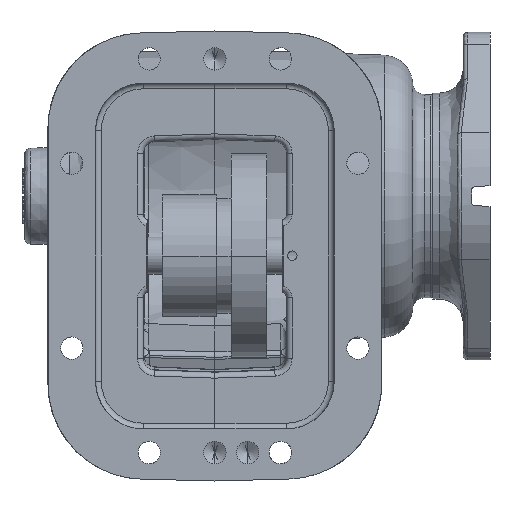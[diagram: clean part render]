
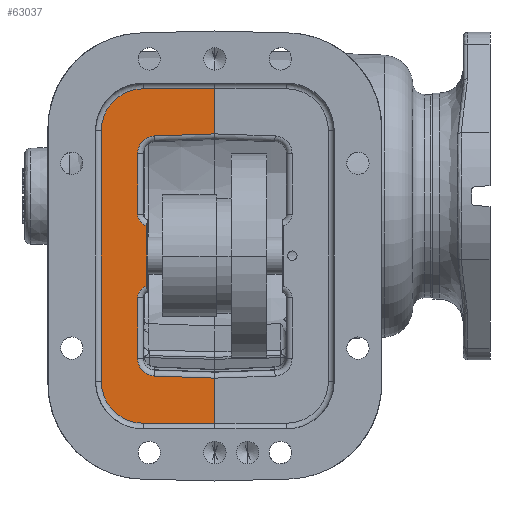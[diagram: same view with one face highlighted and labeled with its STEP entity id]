
A CAD part, front view. The second image highlights one B-rep face of the part: STEP entity #63037.
In plain terms, the highlighted planar face has unit normal (0, -1, 0).
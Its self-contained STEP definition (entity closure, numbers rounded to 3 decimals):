
#1241 = EDGE_LOOP ( 'NONE', ( #9605, #9607, #9609, #9611, #9613, #9615, #9617, #9619, #9621, #9623, #9625, #9627, #9629, #9631, #9633, #9635 ) ) ;
#7384 = CARTESIAN_POINT ( 'NONE',  ( -88.773, -151.106, 55.209 ) ) ;
#7389 = PLANE ( 'NONE',  #95611 ) ;
#7393 = DIRECTION ( 'NONE',  ( 0., 1., 0. ) ) ;
#7394 = DIRECTION ( 'NONE',  ( 0., 0., 1. ) ) ;
#9605 = ORIENTED_EDGE ( 'NONE', *, *, #86012, .F. ) ;
#9607 = ORIENTED_EDGE ( 'NONE', *, *, #59737, .T. ) ;
#9609 = ORIENTED_EDGE ( 'NONE', *, *, #59759, .T. ) ;
#9611 = ORIENTED_EDGE ( 'NONE', *, *, #59781, .T. ) ;
#9613 = ORIENTED_EDGE ( 'NONE', *, *, #59803, .T. ) ;
#9615 = ORIENTED_EDGE ( 'NONE', *, *, #59829, .T. ) ;
#9617 = ORIENTED_EDGE ( 'NONE', *, *, #59858, .T. ) ;
#9619 = ORIENTED_EDGE ( 'NONE', *, *, #59877, .T. ) ;
#9621 = ORIENTED_EDGE ( 'NONE', *, *, #59895, .T. ) ;
#9623 = ORIENTED_EDGE ( 'NONE', *, *, #59916, .T. ) ;
#9625 = ORIENTED_EDGE ( 'NONE', *, *, #86015, .F. ) ;
#9627 = ORIENTED_EDGE ( 'NONE', *, *, #60205, .T. ) ;
#9629 = ORIENTED_EDGE ( 'NONE', *, *, #60183, .T. ) ;
#9631 = ORIENTED_EDGE ( 'NONE', *, *, #60161, .T. ) ;
#9633 = ORIENTED_EDGE ( 'NONE', *, *, #60139, .T. ) ;
#9635 = ORIENTED_EDGE ( 'NONE', *, *, #60146, .T. ) ;
#15151 = LINE ( 'NONE', #54886, #15155 ) ;
#15154 = LINE ( 'NONE', #54888, #15159 ) ;
#15155 = VECTOR ( 'NONE', #54887, 1000. ) ;
#15159 = VECTOR ( 'NONE', #54889, 1000. ) ;
#20519 = CARTESIAN_POINT ( 'NONE',  ( 0.127, -151.106, 26.761 ) ) ;
#20523 = CARTESIAN_POINT ( 'NONE',  ( -37.973, -151.106, 26.761 ) ) ;
#20527 = CARTESIAN_POINT ( 'NONE',  ( -60.325, -151.106, 4.409 ) ) ;
#20530 = CARTESIAN_POINT ( 'NONE',  ( -37.973, -151.106, -151.293 ) ) ;
#20532 = CARTESIAN_POINT ( 'NONE',  ( 0.127, -151.106, -151.293 ) ) ;
#20533 = CARTESIAN_POINT ( 'NONE',  ( -60.325, -151.106, -128.941 ) ) ;
#20557 = CARTESIAN_POINT ( 'NONE',  ( 0.127, -151.106, 2.76 ) ) ;
#20565 = CARTESIAN_POINT ( 'NONE',  ( -31.951, -151.106, 1.64 ) ) ;
#20566 = CARTESIAN_POINT ( 'NONE',  ( -41.021, -151.106, -40.104 ) ) ;
#20569 = CARTESIAN_POINT ( 'NONE',  ( -41.021, -151.106, -7.753 ) ) ;
#20571 = CARTESIAN_POINT ( 'NONE',  ( -36.195, -151.106, -46.066 ) ) ;
#20574 = CARTESIAN_POINT ( 'NONE',  ( -36.195, -151.106, -78.466 ) ) ;
#20582 = CARTESIAN_POINT ( 'NONE',  ( -41.021, -151.106, -84.428 ) ) ;
#20583 = CARTESIAN_POINT ( 'NONE',  ( -41.021, -151.106, -116.779 ) ) ;
#20584 = CARTESIAN_POINT ( 'NONE',  ( 0.127, -151.106, -127.292 ) ) ;
#21937 = VERTEX_POINT ( 'NONE', #20519 ) ;
#21941 = VERTEX_POINT ( 'NONE', #20523 ) ;
#21945 = VERTEX_POINT ( 'NONE', #20527 ) ;
#21948 = VERTEX_POINT ( 'NONE', #20530 ) ;
#21950 = VERTEX_POINT ( 'NONE', #20532 ) ;
#21951 = VERTEX_POINT ( 'NONE', #20533 ) ;
#21975 = VERTEX_POINT ( 'NONE', #20557 ) ;
#21983 = VERTEX_POINT ( 'NONE', #20565 ) ;
#21984 = VERTEX_POINT ( 'NONE', #20566 ) ;
#21987 = VERTEX_POINT ( 'NONE', #20569 ) ;
#21989 = VERTEX_POINT ( 'NONE', #20571 ) ;
#21992 = VERTEX_POINT ( 'NONE', #20574 ) ;
#22000 = VERTEX_POINT ( 'NONE', #20582 ) ;
#22001 = VERTEX_POINT ( 'NONE', #20583 ) ;
#22002 = VERTEX_POINT ( 'NONE', #20584 ) ;
#22004 = VERTEX_POINT ( 'NONE', #94001 ) ;
#27762 = FACE_OUTER_BOUND ( 'NONE', #1241, .T. ) ;
#54886 = CARTESIAN_POINT ( 'NONE',  ( 0.127, -151.106, 55.209 ) ) ;
#54887 = DIRECTION ( 'NONE',  ( 0., 0., -1. ) ) ;
#54888 = CARTESIAN_POINT ( 'NONE',  ( 0.127, -151.106, 55.209 ) ) ;
#54889 = DIRECTION ( 'NONE',  ( 0., 0., -1. ) ) ;
#59737 = EDGE_CURVE ( 'NONE', #22002, #22004, #70588, .T. ) ;
#59759 = EDGE_CURVE ( 'NONE', #22004, #22001, #70597, .T. ) ;
#59781 = EDGE_CURVE ( 'NONE', #22001, #22000, #70604, .T. ) ;
#59803 = EDGE_CURVE ( 'NONE', #22000, #21992, #70616, .T. ) ;
#59829 = EDGE_CURVE ( 'NONE', #21992, #21989, #70624, .T. ) ;
#59858 = EDGE_CURVE ( 'NONE', #21989, #21984, #70632, .T. ) ;
#59877 = EDGE_CURVE ( 'NONE', #21984, #21987, #70638, .T. ) ;
#59895 = EDGE_CURVE ( 'NONE', #21987, #21983, #70649, .T. ) ;
#59916 = EDGE_CURVE ( 'NONE', #21983, #21975, #70654, .T. ) ;
#60139 = EDGE_CURVE ( 'NONE', #21951, #21948, #70705, .T. ) ;
#60146 = EDGE_CURVE ( 'NONE', #21948, #21950, #70704, .T. ) ;
#60161 = EDGE_CURVE ( 'NONE', #21945, #21951, #70712, .T. ) ;
#60183 = EDGE_CURVE ( 'NONE', #21941, #21945, #70725, .T. ) ;
#60205 = EDGE_CURVE ( 'NONE', #21937, #21941, #70732, .T. ) ;
#63037 = ADVANCED_FACE ( 'NONE', ( #27762 ), #7389, .F. ) ;
#68636 = DIRECTION ( 'NONE',  ( -0.999, 0., 0.035 ) ) ;
#68643 = CARTESIAN_POINT ( 'NONE',  ( -31.951, -151.106, -126.172 ) ) ;
#68691 = CARTESIAN_POINT ( 'NONE',  ( -31.623, -151.106, -116.779 ) ) ;
#68692 = DIRECTION ( 'NONE',  ( 0., 1., 0. ) ) ;
#68694 = DIRECTION ( 'NONE',  ( 0., 0., 1. ) ) ;
#68713 = DIRECTION ( 'NONE',  ( 0., 0., 1. ) ) ;
#68721 = CARTESIAN_POINT ( 'NONE',  ( -41.021, -151.106, -84.428 ) ) ;
#68768 = CARTESIAN_POINT ( 'NONE',  ( -34.925, -151.106, -84.428 ) ) ;
#68770 = DIRECTION ( 'NONE',  ( 0., 1., 0. ) ) ;
#68771 = DIRECTION ( 'NONE',  ( 0., 0., 1. ) ) ;
#68799 = DIRECTION ( 'NONE',  ( 0., 0., 1. ) ) ;
#68808 = CARTESIAN_POINT ( 'NONE',  ( -36.195, -151.106, -46.066 ) ) ;
#68872 = CARTESIAN_POINT ( 'NONE',  ( -34.925, -151.106, -40.104 ) ) ;
#68874 = DIRECTION ( 'NONE',  ( 0., 1., 0. ) ) ;
#68876 = DIRECTION ( 'NONE',  ( 0., 0., 1. ) ) ;
#68887 = DIRECTION ( 'NONE',  ( 0., 0., 1. ) ) ;
#68896 = CARTESIAN_POINT ( 'NONE',  ( -41.021, -151.106, -7.753 ) ) ;
#68945 = CARTESIAN_POINT ( 'NONE',  ( -31.623, -151.106, -7.753 ) ) ;
#68947 = DIRECTION ( 'NONE',  ( 0., 1., 0. ) ) ;
#68949 = DIRECTION ( 'NONE',  ( 0., 0., 1. ) ) ;
#68952 = CARTESIAN_POINT ( 'NONE',  ( 0.021, -151.106, 2.756 ) ) ;
#68982 = DIRECTION ( 'NONE',  ( 0.999, 0., 0.035 ) ) ;
#69619 = DIRECTION ( 'NONE',  ( 1., 0., 0. ) ) ;
#69620 = CARTESIAN_POINT ( 'NONE',  ( -37.973, -151.106, -128.941 ) ) ;
#69621 = DIRECTION ( 'NONE',  ( 0., -1., 0. ) ) ;
#69622 = DIRECTION ( 'NONE',  ( 0., 0., 1. ) ) ;
#69623 = CARTESIAN_POINT ( 'NONE',  ( 0.127, -151.106, -151.293 ) ) ;
#69630 = CARTESIAN_POINT ( 'NONE',  ( -60.325, -151.106, -128.941 ) ) ;
#69636 = DIRECTION ( 'NONE',  ( 0., 0., -1. ) ) ;
#69649 = CARTESIAN_POINT ( 'NONE',  ( -37.973, -151.106, 4.409 ) ) ;
#69650 = DIRECTION ( 'NONE',  ( 0., -1., 0. ) ) ;
#69651 = DIRECTION ( 'NONE',  ( 0., 0., 1. ) ) ;
#69662 = CARTESIAN_POINT ( 'NONE',  ( -37.973, -151.106, 26.761 ) ) ;
#69668 = DIRECTION ( 'NONE',  ( -1., 0., 0. ) ) ;
#70588 = LINE ( 'NONE', #68643, #70593 ) ;
#70593 = VECTOR ( 'NONE', #68636, 1000. ) ;
#70597 = CIRCLE ( 'NONE', #89860, 9.398 ) ;
#70604 = LINE ( 'NONE', #68721, #70610 ) ;
#70610 = VECTOR ( 'NONE', #68713, 1000. ) ;
#70616 = CIRCLE ( 'NONE', #89868, 6.096 ) ;
#70624 = LINE ( 'NONE', #68808, #70628 ) ;
#70628 = VECTOR ( 'NONE', #68799, 1000. ) ;
#70632 = CIRCLE ( 'NONE', #89881, 6.096 ) ;
#70638 = LINE ( 'NONE', #68896, #70645 ) ;
#70645 = VECTOR ( 'NONE', #68887, 1000. ) ;
#70649 = CIRCLE ( 'NONE', #89888, 9.398 ) ;
#70654 = LINE ( 'NONE', #68952, #70661 ) ;
#70661 = VECTOR ( 'NONE', #68982, 1000. ) ;
#70704 = LINE ( 'NONE', #69623, #70709 ) ;
#70705 = CIRCLE ( 'NONE', #89913, 22.352 ) ;
#70709 = VECTOR ( 'NONE', #69619, 1000. ) ;
#70712 = LINE ( 'NONE', #69630, #70718 ) ;
#70718 = VECTOR ( 'NONE', #69636, 1000. ) ;
#70725 = CIRCLE ( 'NONE', #89919, 22.352 ) ;
#70732 = LINE ( 'NONE', #69662, #70736 ) ;
#70736 = VECTOR ( 'NONE', #69668, 1000. ) ;
#86012 = EDGE_CURVE ( 'NONE', #22002, #21950, #15151, .T. ) ;
#86015 = EDGE_CURVE ( 'NONE', #21937, #21975, #15154, .T. ) ;
#89860 = AXIS2_PLACEMENT_3D ( 'NONE', #68691, #68692, #68694 ) ;
#89868 = AXIS2_PLACEMENT_3D ( 'NONE', #68768, #68770, #68771 ) ;
#89881 = AXIS2_PLACEMENT_3D ( 'NONE', #68872, #68874, #68876 ) ;
#89888 = AXIS2_PLACEMENT_3D ( 'NONE', #68945, #68947, #68949 ) ;
#89913 = AXIS2_PLACEMENT_3D ( 'NONE', #69620, #69621, #69622 ) ;
#89919 = AXIS2_PLACEMENT_3D ( 'NONE', #69649, #69650, #69651 ) ;
#94001 = CARTESIAN_POINT ( 'NONE',  ( -31.951, -151.106, -126.172 ) ) ;
#95611 = AXIS2_PLACEMENT_3D ( 'NONE', #7384, #7393, #7394 ) ;
